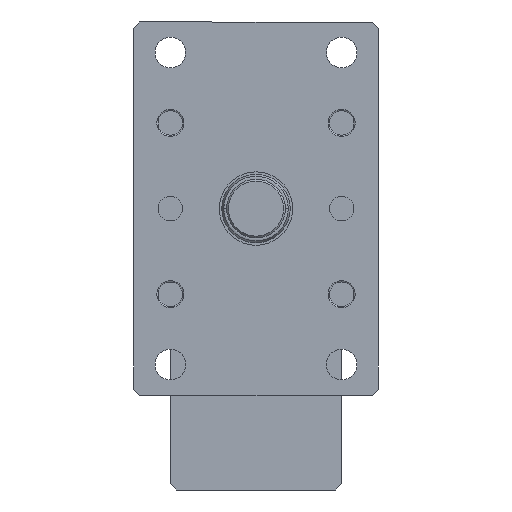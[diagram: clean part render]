
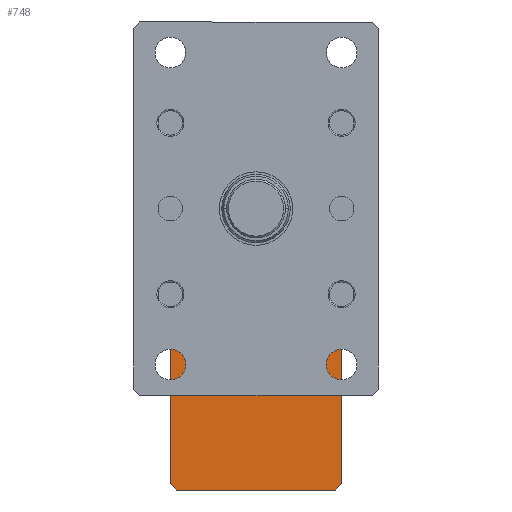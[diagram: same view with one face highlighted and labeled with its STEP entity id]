
A CAD part, left-side view. The second image highlights one B-rep face of the part: STEP entity #748.
In plain terms, the highlighted planar face has unit normal (-1, 0, 0).
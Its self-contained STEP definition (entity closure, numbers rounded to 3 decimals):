
#262 = CARTESIAN_POINT ( 'NONE',  ( 427.5, 65., -230. ) ) ;
#264 = VERTEX_POINT ( 'NONE', #2723 ) ;
#284 = DIRECTION ( 'NONE',  ( 0., 0., 1. ) ) ;
#344 = CARTESIAN_POINT ( 'NONE',  ( 427.5, -65., -90. ) ) ;
#413 = ORIENTED_EDGE ( 'NONE', *, *, #2663, .F. ) ;
#748 = ADVANCED_FACE ( 'NONE', ( #1175 ), #5906, .F. ) ;
#923 = VERTEX_POINT ( 'NONE', #6956 ) ;
#1088 = EDGE_LOOP ( 'NONE', ( #3310, #8743, #3899, #6266, #7924, #6729, #413, #5826 ) ) ;
#1175 = FACE_OUTER_BOUND ( 'NONE', #1088, .T. ) ;
#1178 = VERTEX_POINT ( 'NONE', #262 ) ;
#1362 = DIRECTION ( 'NONE',  ( 0., 0., 1. ) ) ;
#1652 = VECTOR ( 'NONE', #6413, 1000. ) ;
#1673 = VECTOR ( 'NONE', #1877, 1000. ) ;
#1771 = EDGE_CURVE ( 'NONE', #6641, #4151, #6681, .T. ) ;
#1877 = DIRECTION ( 'NONE',  ( 0., 1., 0. ) ) ;
#1951 = VECTOR ( 'NONE', #8270, 1000. ) ;
#2042 = CARTESIAN_POINT ( 'NONE',  ( 427.5, -65., -230. ) ) ;
#2214 = EDGE_CURVE ( 'NONE', #7953, #4424, #3452, .T. ) ;
#2620 = AXIS2_PLACEMENT_3D ( 'NONE', #5945, #7347, #3246 ) ;
#2663 = EDGE_CURVE ( 'NONE', #6641, #1178, #3443, .T. ) ;
#2711 = CARTESIAN_POINT ( 'NONE',  ( 427.5, -65., -230. ) ) ;
#2723 = CARTESIAN_POINT ( 'NONE',  ( 427.5, 70., -225. ) ) ;
#2727 = LINE ( 'NONE', #4369, #4337 ) ;
#2841 = EDGE_CURVE ( 'NONE', #4424, #923, #5553, .T. ) ;
#3142 = EDGE_CURVE ( 'NONE', #264, #1178, #3239, .T. ) ;
#3145 = EDGE_CURVE ( 'NONE', #6339, #7953, #6856, .T. ) ;
#3168 = CARTESIAN_POINT ( 'NONE',  ( 427.5, 70., -95. ) ) ;
#3239 = LINE ( 'NONE', #7097, #1652 ) ;
#3246 = DIRECTION ( 'NONE',  ( 0., 1., 0. ) ) ;
#3310 = ORIENTED_EDGE ( 'NONE', *, *, #5683, .T. ) ;
#3443 = LINE ( 'NONE', #5462, #6666 ) ;
#3452 = LINE ( 'NONE', #5949, #1673 ) ;
#3529 = DIRECTION ( 'NONE',  ( 0., 0.707, 0.707 ) ) ;
#3651 = DIRECTION ( 'NONE',  ( 0., 1., 0. ) ) ;
#3899 = ORIENTED_EDGE ( 'NONE', *, *, #2214, .T. ) ;
#3960 = LINE ( 'NONE', #5405, #7404 ) ;
#4151 = VERTEX_POINT ( 'NONE', #5466 ) ;
#4337 = VECTOR ( 'NONE', #284, 1000. ) ;
#4369 = CARTESIAN_POINT ( 'NONE',  ( 427.5, 70., -230. ) ) ;
#4424 = VERTEX_POINT ( 'NONE', #5476 ) ;
#4775 = DIRECTION ( 'NONE',  ( 0., -0.707, 0.707 ) ) ;
#4852 = VECTOR ( 'NONE', #4775, 1000. ) ;
#5057 = VECTOR ( 'NONE', #3529, 1000. ) ;
#5405 = CARTESIAN_POINT ( 'NONE',  ( 427.5, -70., -230. ) ) ;
#5462 = CARTESIAN_POINT ( 'NONE',  ( 427.5, 70., -230. ) ) ;
#5466 = CARTESIAN_POINT ( 'NONE',  ( 427.5, -70., -225. ) ) ;
#5476 = CARTESIAN_POINT ( 'NONE',  ( 427.5, 65., -90. ) ) ;
#5553 = LINE ( 'NONE', #3168, #1951 ) ;
#5683 = EDGE_CURVE ( 'NONE', #4151, #6339, #3960, .T. ) ;
#5826 = ORIENTED_EDGE ( 'NONE', *, *, #1771, .T. ) ;
#5906 = PLANE ( 'NONE',  #2620 ) ;
#5945 = CARTESIAN_POINT ( 'NONE',  ( 427.5, 70., -230. ) ) ;
#5949 = CARTESIAN_POINT ( 'NONE',  ( 427.5, 70., -90. ) ) ;
#6266 = ORIENTED_EDGE ( 'NONE', *, *, #2841, .T. ) ;
#6339 = VERTEX_POINT ( 'NONE', #8152 ) ;
#6413 = DIRECTION ( 'NONE',  ( 0., -0.707, -0.707 ) ) ;
#6641 = VERTEX_POINT ( 'NONE', #2042 ) ;
#6666 = VECTOR ( 'NONE', #3651, 1000. ) ;
#6681 = LINE ( 'NONE', #2711, #4852 ) ;
#6729 = ORIENTED_EDGE ( 'NONE', *, *, #3142, .T. ) ;
#6856 = LINE ( 'NONE', #7647, #5057 ) ;
#6911 = EDGE_CURVE ( 'NONE', #264, #923, #2727, .T. ) ;
#6956 = CARTESIAN_POINT ( 'NONE',  ( 427.5, 70., -95. ) ) ;
#7097 = CARTESIAN_POINT ( 'NONE',  ( 427.5, 65., -230. ) ) ;
#7347 = DIRECTION ( 'NONE',  ( 1., 0., 0. ) ) ;
#7404 = VECTOR ( 'NONE', #1362, 1000. ) ;
#7647 = CARTESIAN_POINT ( 'NONE',  ( 427.5, -70., -95. ) ) ;
#7924 = ORIENTED_EDGE ( 'NONE', *, *, #6911, .F. ) ;
#7953 = VERTEX_POINT ( 'NONE', #344 ) ;
#8152 = CARTESIAN_POINT ( 'NONE',  ( 427.5, -70., -95. ) ) ;
#8270 = DIRECTION ( 'NONE',  ( 0., 0.707, -0.707 ) ) ;
#8743 = ORIENTED_EDGE ( 'NONE', *, *, #3145, .T. ) ;
